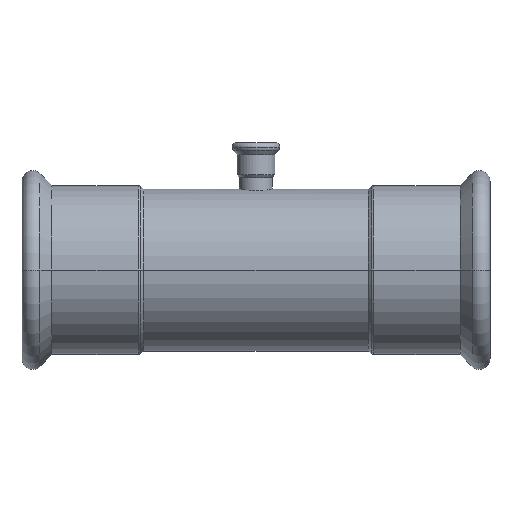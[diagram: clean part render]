
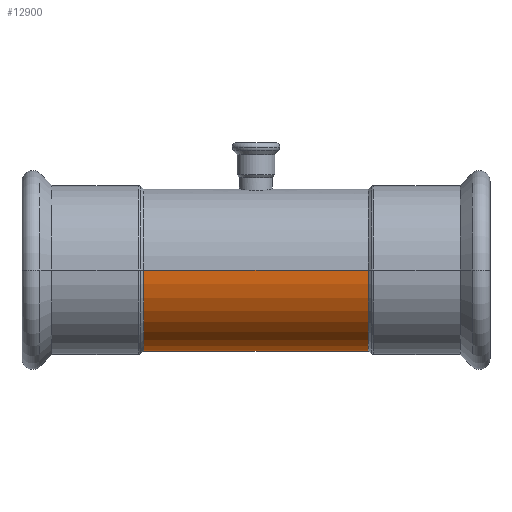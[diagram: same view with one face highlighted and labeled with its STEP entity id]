
A CAD part, front view. The second image highlights one B-rep face of the part: STEP entity #12900.
In plain terms, the highlighted cylindrical face has radius 54 mm (diameter 108 mm), a partial arc.
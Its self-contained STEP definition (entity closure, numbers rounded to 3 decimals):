
#4260=CARTESIAN_POINT('',(-244.291,-20.065,0.));
#4270=DIRECTION('',(1.,0.,0.));
#4280=DIRECTION('',(0.,0.,-1.));
#4290=AXIS2_PLACEMENT_3D('',#4260,#4270,#4280);
#4300=CYLINDRICAL_SURFACE('',#4290,54.);
#12540=CARTESIAN_POINT('',(-244.291,-20.065,54.));
#12550=DIRECTION('',(1.,0.,0.));
#12560=VECTOR('',#12550,1.);
#12570=LINE('',#12540,#12560);
#12580=CARTESIAN_POINT('',(-394.291,-20.065,54.));
#12590=VERTEX_POINT('',#12580);
#12600=CARTESIAN_POINT('',(-244.291,-20.065,54.));
#12610=VERTEX_POINT('',#12600);
#12620=EDGE_CURVE('',#12590,#12610,#12570,.T.);
#12630=ORIENTED_EDGE('',*,*,#12620,.F.);
#12640=CARTESIAN_POINT('',(-244.291,-20.065,0.));
#12650=DIRECTION('',(1.,0.,0.));
#12660=DIRECTION('',(0.,0.,1.));
#12670=AXIS2_PLACEMENT_3D('',#12640,#12650,#12660);
#12680=CIRCLE('',#12670,54.);
#12690=CARTESIAN_POINT('',(-244.291,-20.065,-54.));
#12700=VERTEX_POINT('',#12690);
#12710=EDGE_CURVE('',#12610,#12700,#12680,.T.);
#12720=ORIENTED_EDGE('',*,*,#12710,.F.);
#12730=CARTESIAN_POINT('',(-244.291,-20.065,-54.));
#12740=DIRECTION('',(1.,0.,0.));
#12750=VECTOR('',#12740,1.);
#12760=LINE('',#12730,#12750);
#12770=CARTESIAN_POINT('',(-394.291,-20.065,-54.));
#12780=VERTEX_POINT('',#12770);
#12790=EDGE_CURVE('',#12780,#12700,#12760,.T.);
#12800=ORIENTED_EDGE('',*,*,#12790,.T.);
#12810=CARTESIAN_POINT('',(-394.291,-20.065,0.));
#12820=DIRECTION('',(1.,0.,0.));
#12830=DIRECTION('',(0.,0.,-1.));
#12840=AXIS2_PLACEMENT_3D('',#12810,#12820,#12830);
#12850=CIRCLE('',#12840,54.);
#12860=EDGE_CURVE('',#12590,#12780,#12850,.T.);
#12870=ORIENTED_EDGE('',*,*,#12860,.T.);
#12880=EDGE_LOOP('',(#12870,#12800,#12720,#12630));
#12890=FACE_OUTER_BOUND('',#12880,.T.);
#12900=ADVANCED_FACE('',(#12890),#4300,.T.);
